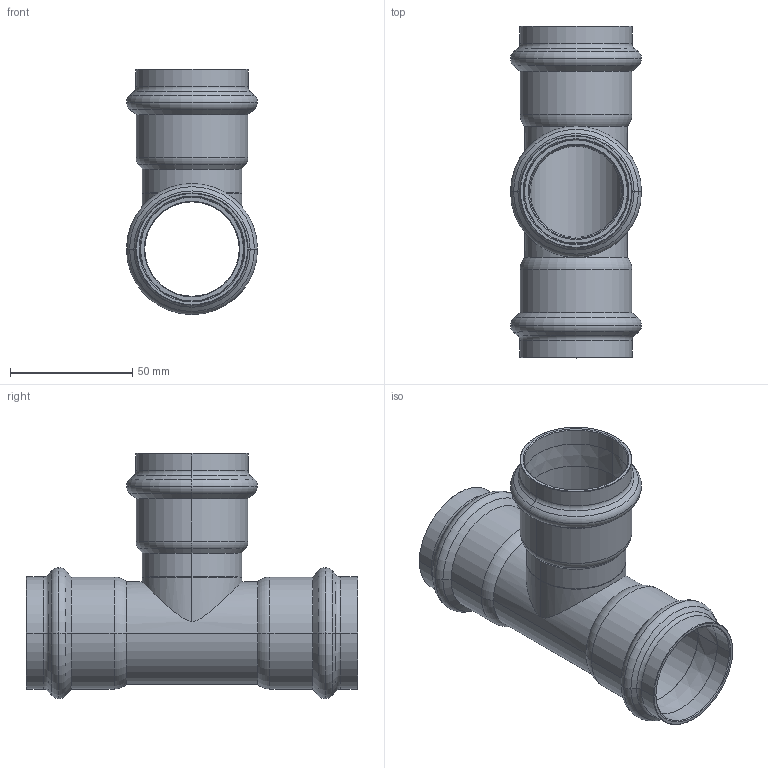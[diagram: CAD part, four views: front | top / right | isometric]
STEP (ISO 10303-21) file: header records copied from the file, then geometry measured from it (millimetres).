
FILE_DESCRIPTION(('CoCreate Modeling STEP Export'),'2;1');
FILE_NAME('8130VW42.stp','2013-01-29T16:21:17',(''),(''),'CoCreate Modeling STEP processor for AP214 (Solid Model)','CoCreate Modeling 17.00A 17-Jun-2010 (C) Parametric Technology GmbH','');
FILE_SCHEMA(('AUTOMOTIVE_DESIGN { 1 0 10303 214 1 1 1 1 }'));
Length unit declared in the file: millimetre
Products named in the file (2): 8130VW42
Assembly tree (1 placements, depth 2):
  8130VW42
    8130VW42
Bounding box: 53.61 x 135.73 x 100.3 mm (x, y, z)
Volume: 54149.7 mm3; surface area: 53407.8 mm2
Topology: 1 solids, 1 shells, 134 faces, 276 edges, 152 vertices
Faces by surface type: cylinder 42, torus 42, cone 38, plane 10, bspline 2
Entity records: 6576 total; most frequent: CARTESIAN_POINT 4153, ORIENTED_EDGE 552, DIRECTION 444, EDGE_CURVE 276, AXIS2_PLACEMENT_3D 182, VERTEX_POINT 152, EDGE_LOOP 146, FACE_OUTER_BOUND 134
